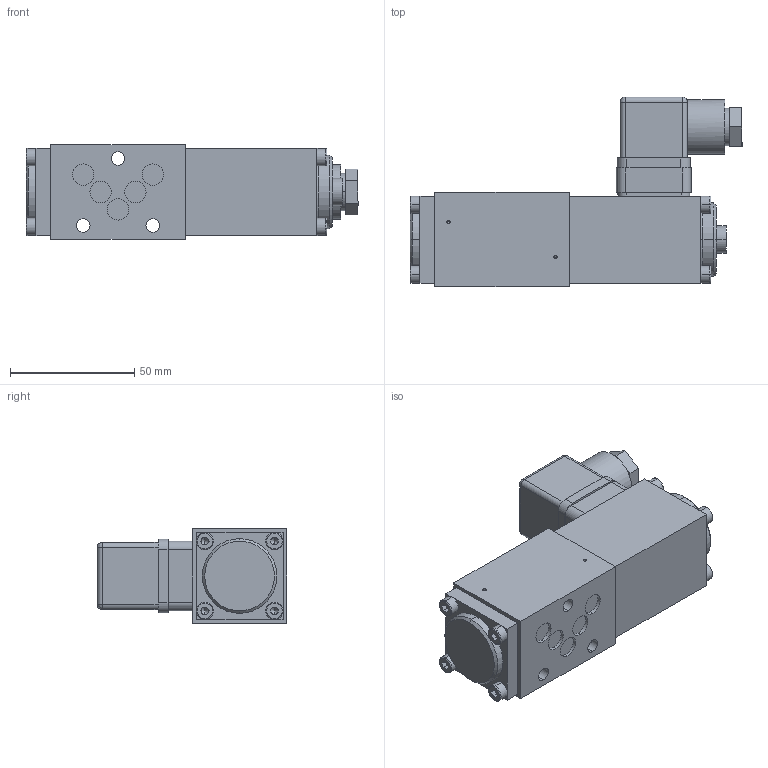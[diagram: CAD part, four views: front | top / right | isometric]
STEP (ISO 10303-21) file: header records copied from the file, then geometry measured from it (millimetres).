
FILE_DESCRIPTION (( 'STEP AP214' ), '1' );
FILE_NAME ('B.32040b.STEP', '2017-03-17T12:31:22', ( '' ), ( '' ), 'SwSTEP 2.0', 'SolidWorks 2016', '' );
FILE_SCHEMA (( 'AUTOMOTIVE_DESIGN' ));
Length unit declared in the file: millimetre
Products named in the file (1): B.32040b
Bounding box: 133.5 x 76.3 x 38 mm (x, y, z)
Volume: 181713.2 mm3; surface area: 42746.5 mm2
Topology: 14 solids, 22 shells, 770 faces, 1887 edges, 1178 vertices
Faces by surface type: plane 423, cylinder 212, cone 77, torus 34, bspline 22, sphere 2
Entity records: 32062 total; most frequent: CARTESIAN_POINT 5192, DIRECTION 3857, ORIENTED_EDGE 3690, EDGE_CURVE 1845, AXIS2_PLACEMENT_3D 1349, VERTEX_POINT 1178, LINE 1159, VECTOR 1159
